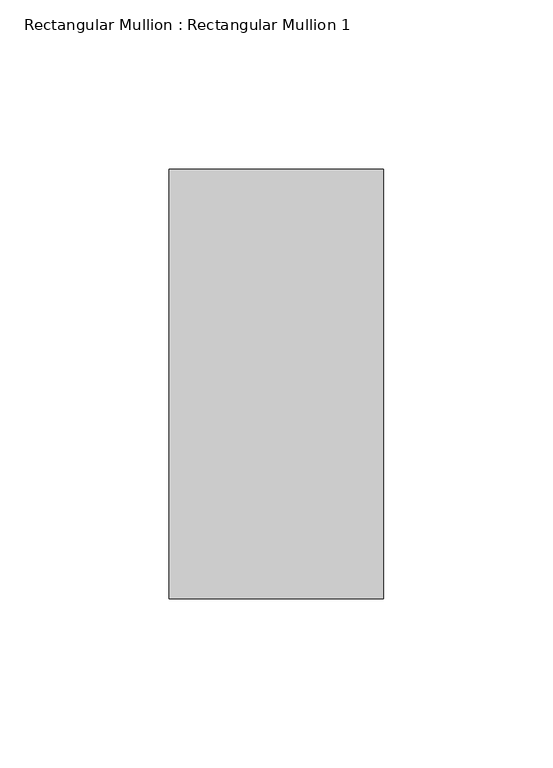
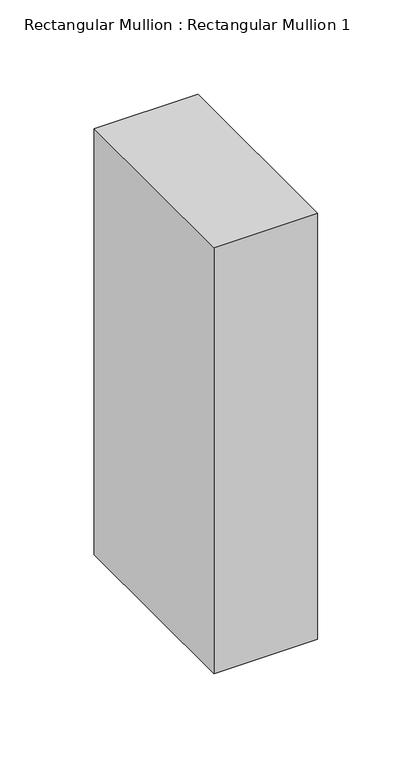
"""IFC4 building model written with IfcOpenShell, lengths in millimetres: member geometry, Rectangular Mullion : Rectangular Mullion 1."""

from ifc_helpers import new_model, si_unit, frame, origin, place, context, project, spatial, polyline, outline, extrude, source, transform, mapped, element, save


def rectangular_mullion_rectangular_mullion_1_f75d8952(model_context):
    return source(origin(), model_context, "Body", "SweptSolid", [
        extrude(outline(polyline([(0.0, 63.5), (0.0, -63.5), (-63.5, -63.5), (-63.5, 63.5), (0.0, 63.5)])), frame((0.0, 0.0, -275.7527241), z_axis=(0.0, 0.0, 1.0), x_axis=(1.0, 0.0, 0.0)), (0.0, 0.0, 1.0), 275.7527241),
    ])


if __name__ == "__main__":
    model = new_model("IFC4")
    model_context = context("Model", 3, world=origin())
    ifc_project = project(units=[si_unit("LENGTHUNIT", "METRE", prefix="MILLI")], contexts=[model_context])
    site = spatial("IfcSite", under=ifc_project)
    building = spatial("IfcBuilding", under=site)
    placement = place(None, origin())
    rectangular_mullion_rectangular_mullion_1_shape = rectangular_mullion_rectangular_mullion_1_f75d8952(model_context)
    element("IfcMember", 1, ObjectType="Rectangular Mullion : Rectangular Mullion 1", at=placement, inside=building, context=model_context, shape_type="MappedRepresentation", body=[
        mapped(rectangular_mullion_rectangular_mullion_1_shape, transform((0.0, 0.0, 0.0), x_axis=(1.0, 0.0, 0.0), y_axis=(0.0, 1.0, 0.0), z_axis=(0.0, 0.0, 1.0))),
    ])
    save(model, "model.ifc")
